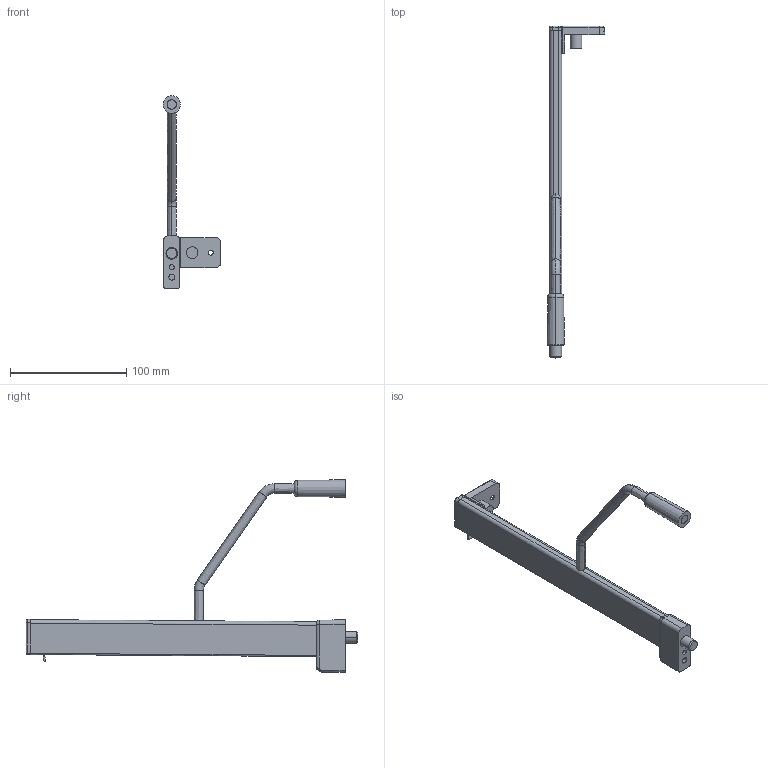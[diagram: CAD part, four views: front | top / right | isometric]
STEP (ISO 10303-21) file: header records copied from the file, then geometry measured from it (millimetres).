
FILE_DESCRIPTION (( 'STEP AP214' ), '1' );
FILE_NAME ('_2S_REL_7606_NL270_LI_Frontstütze.step', '2010-07-01T14:42:00', ( 'grass' ), ( '' ), 'SwSTEP 2.0', 'SolidWorks 2009', '' );
FILE_SCHEMA (( 'AUTOMOTIVE_DESIGN' ));
Length unit declared in the file: millimetre
Products named in the file (1): _2S_REL_7606_NL270_LI_Frontstütze
Bounding box: 49.75 x 285.5 x 165.5 mm (x, y, z)
Volume: 112981.8 mm3; surface area: 33557.3 mm2
Topology: 2 solids, 2 shells, 142 faces, 337 edges, 203 vertices
Faces by surface type: cylinder 60, plane 46, bspline 16, torus 12, cone 6, sphere 2
Entity records: 5403 total; most frequent: CARTESIAN_POINT 2229, ORIENTED_EDGE 670, DIRECTION 647, EDGE_CURVE 335, AXIS2_PLACEMENT_3D 247, VERTEX_POINT 203, LINE 153, VECTOR 153
